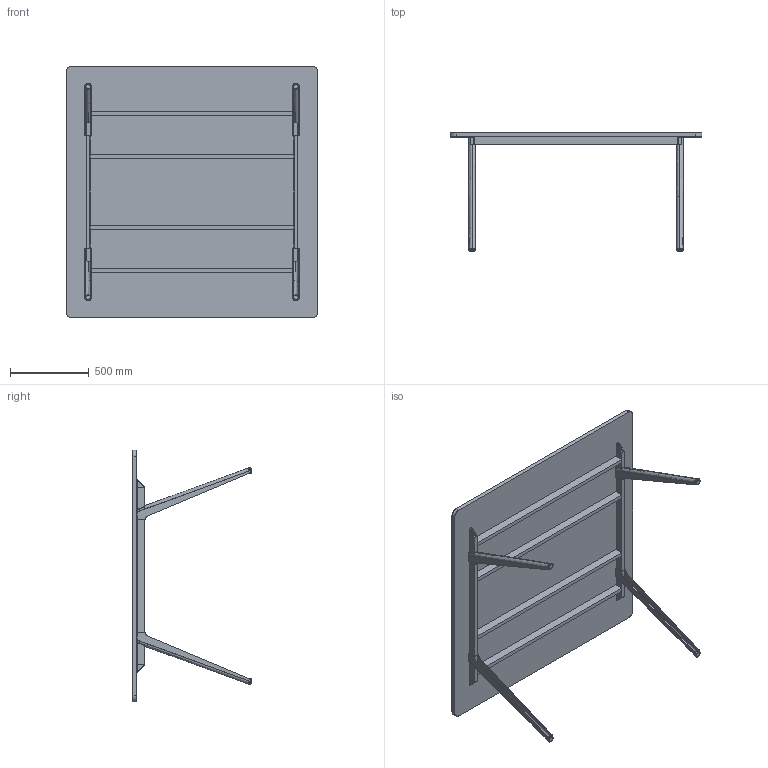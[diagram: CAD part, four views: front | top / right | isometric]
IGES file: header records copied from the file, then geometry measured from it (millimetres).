
Start section: SolidWorks IGES file using analytic representation for surfaces
Global section: file name: C:\Users\simone.cerana\OneDrive - Gruppo Tecno\Desktop\CHINA\DISEGNI DI SERIE\ASSIEMI LISTINO\HORIZON LISTINO\HO1616MS.IGS; native system: SolidWorks 2024; preprocessor: SolidWorks 2024; author: simone.cerana; date: 260508.123953; units: millimetre
Bounding box: 1600 x 749.83 x 1600 mm (x, y, z)
Surface area: 6821131 mm2 (no closed solid volume)
Topology: 0 solids, 0 shells, 272 faces, 3652 edges, 3652 vertices
Faces by surface type: bspline 184, revolution 88
